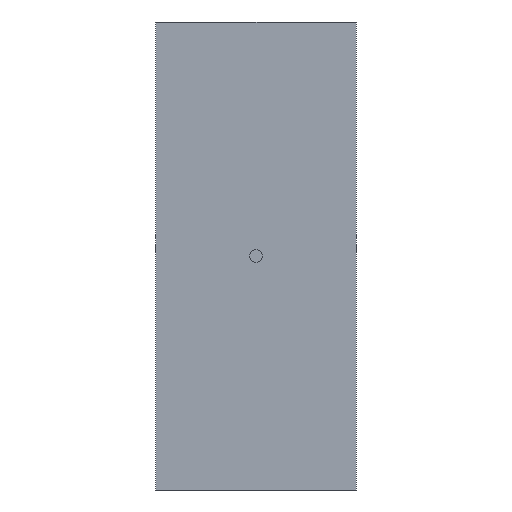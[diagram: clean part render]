
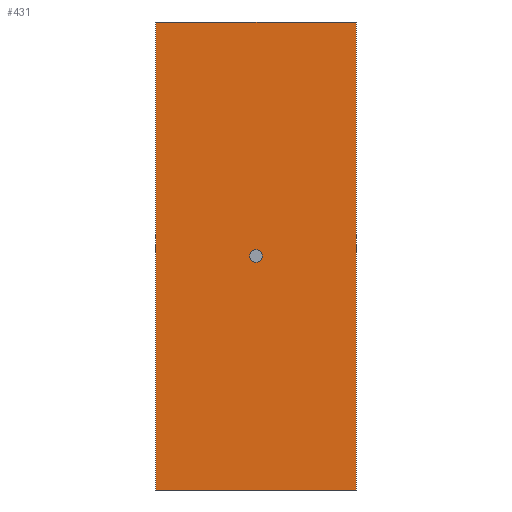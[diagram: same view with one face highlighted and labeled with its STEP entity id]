
A CAD part, left-side view. The second image highlights one B-rep face of the part: STEP entity #431.
In plain terms, the highlighted planar face has unit normal (-1, 0, 0).
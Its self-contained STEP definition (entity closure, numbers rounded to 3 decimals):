
#44 = PLANE('',#45);
#45 = AXIS2_PLACEMENT_3D('',#46,#47,#48);
#46 = CARTESIAN_POINT('',(0.,0.,0.));
#47 = DIRECTION('',(0.,1.,0.));
#48 = DIRECTION('',(0.,0.,1.));
#72 = PLANE('',#73);
#73 = AXIS2_PLACEMENT_3D('',#74,#75,#76);
#74 = CARTESIAN_POINT('',(0.,0.,0.));
#75 = DIRECTION('',(0.,0.,1.));
#76 = DIRECTION('',(1.,0.,0.));
#100 = PLANE('',#101);
#101 = AXIS2_PLACEMENT_3D('',#102,#103,#104);
#102 = CARTESIAN_POINT('',(0.,38.1,0.));
#103 = DIRECTION('',(0.,1.,0.));
#104 = DIRECTION('',(0.,0.,1.));
#126 = PLANE('',#127);
#127 = AXIS2_PLACEMENT_3D('',#128,#129,#130);
#128 = CARTESIAN_POINT('',(0.,0.,88.9));
#129 = DIRECTION('',(0.,0.,1.));
#130 = DIRECTION('',(1.,0.,0.));
#142 = VERTEX_POINT('',#143);
#143 = CARTESIAN_POINT('',(0.,0.,0.));
#164 = EDGE_CURVE('',#142,#165,#167,.T.);
#165 = VERTEX_POINT('',#166);
#166 = CARTESIAN_POINT('',(0.,0.,88.9));
#167 = SURFACE_CURVE('',#168,(#172,#179),.PCURVE_S1.);
#168 = LINE('',#169,#170);
#169 = CARTESIAN_POINT('',(0.,0.,0.));
#170 = VECTOR('',#171,1.);
#171 = DIRECTION('',(0.,0.,1.));
#172 = PCURVE('',#44,#173);
#173 = DEFINITIONAL_REPRESENTATION('',(#174),#178);
#174 = LINE('',#175,#176);
#175 = CARTESIAN_POINT('',(0.,0.));
#176 = VECTOR('',#177,1.);
#177 = DIRECTION('',(1.,0.));
#178 = ( GEOMETRIC_REPRESENTATION_CONTEXT(2) 
PARAMETRIC_REPRESENTATION_CONTEXT() REPRESENTATION_CONTEXT('2D SPACE',''
  ) );
#179 = PCURVE('',#180,#185);
#180 = PLANE('',#181);
#181 = AXIS2_PLACEMENT_3D('',#182,#183,#184);
#182 = CARTESIAN_POINT('',(0.,0.,0.));
#183 = DIRECTION('',(1.,0.,0.));
#184 = DIRECTION('',(0.,0.,1.));
#185 = DEFINITIONAL_REPRESENTATION('',(#186),#190);
#186 = LINE('',#187,#188);
#187 = CARTESIAN_POINT('',(0.,0.));
#188 = VECTOR('',#189,1.);
#189 = DIRECTION('',(1.,0.));
#190 = ( GEOMETRIC_REPRESENTATION_CONTEXT(2) 
PARAMETRIC_REPRESENTATION_CONTEXT() REPRESENTATION_CONTEXT('2D SPACE',''
  ) );
#217 = EDGE_CURVE('',#165,#218,#220,.T.);
#218 = VERTEX_POINT('',#219);
#219 = CARTESIAN_POINT('',(0.,38.1,88.9));
#220 = SURFACE_CURVE('',#221,(#225,#232),.PCURVE_S1.);
#221 = LINE('',#222,#223);
#222 = CARTESIAN_POINT('',(0.,0.,88.9));
#223 = VECTOR('',#224,1.);
#224 = DIRECTION('',(0.,1.,0.));
#225 = PCURVE('',#126,#226);
#226 = DEFINITIONAL_REPRESENTATION('',(#227),#231);
#227 = LINE('',#228,#229);
#228 = CARTESIAN_POINT('',(0.,0.));
#229 = VECTOR('',#230,1.);
#230 = DIRECTION('',(0.,1.));
#231 = ( GEOMETRIC_REPRESENTATION_CONTEXT(2) 
PARAMETRIC_REPRESENTATION_CONTEXT() REPRESENTATION_CONTEXT('2D SPACE',''
  ) );
#232 = PCURVE('',#180,#233);
#233 = DEFINITIONAL_REPRESENTATION('',(#234),#238);
#234 = LINE('',#235,#236);
#235 = CARTESIAN_POINT('',(88.9,0.));
#236 = VECTOR('',#237,1.);
#237 = DIRECTION('',(0.,-1.));
#238 = ( GEOMETRIC_REPRESENTATION_CONTEXT(2) 
PARAMETRIC_REPRESENTATION_CONTEXT() REPRESENTATION_CONTEXT('2D SPACE',''
  ) );
#267 = VERTEX_POINT('',#268);
#268 = CARTESIAN_POINT('',(0.,38.1,0.));
#289 = EDGE_CURVE('',#267,#218,#290,.T.);
#290 = SURFACE_CURVE('',#291,(#295,#302),.PCURVE_S1.);
#291 = LINE('',#292,#293);
#292 = CARTESIAN_POINT('',(0.,38.1,0.));
#293 = VECTOR('',#294,1.);
#294 = DIRECTION('',(0.,0.,1.));
#295 = PCURVE('',#100,#296);
#296 = DEFINITIONAL_REPRESENTATION('',(#297),#301);
#297 = LINE('',#298,#299);
#298 = CARTESIAN_POINT('',(0.,0.));
#299 = VECTOR('',#300,1.);
#300 = DIRECTION('',(1.,0.));
#301 = ( GEOMETRIC_REPRESENTATION_CONTEXT(2) 
PARAMETRIC_REPRESENTATION_CONTEXT() REPRESENTATION_CONTEXT('2D SPACE',''
  ) );
#302 = PCURVE('',#180,#303);
#303 = DEFINITIONAL_REPRESENTATION('',(#304),#308);
#304 = LINE('',#305,#306);
#305 = CARTESIAN_POINT('',(0.,-38.1));
#306 = VECTOR('',#307,1.);
#307 = DIRECTION('',(1.,0.));
#308 = ( GEOMETRIC_REPRESENTATION_CONTEXT(2) 
PARAMETRIC_REPRESENTATION_CONTEXT() REPRESENTATION_CONTEXT('2D SPACE',''
  ) );
#408 = EDGE_CURVE('',#142,#267,#409,.T.);
#409 = SURFACE_CURVE('',#410,(#414,#421),.PCURVE_S1.);
#410 = LINE('',#411,#412);
#411 = CARTESIAN_POINT('',(0.,0.,0.));
#412 = VECTOR('',#413,1.);
#413 = DIRECTION('',(0.,1.,0.));
#414 = PCURVE('',#72,#415);
#415 = DEFINITIONAL_REPRESENTATION('',(#416),#420);
#416 = LINE('',#417,#418);
#417 = CARTESIAN_POINT('',(0.,0.));
#418 = VECTOR('',#419,1.);
#419 = DIRECTION('',(0.,1.));
#420 = ( GEOMETRIC_REPRESENTATION_CONTEXT(2) 
PARAMETRIC_REPRESENTATION_CONTEXT() REPRESENTATION_CONTEXT('2D SPACE',''
  ) );
#421 = PCURVE('',#180,#422);
#422 = DEFINITIONAL_REPRESENTATION('',(#423),#427);
#423 = LINE('',#424,#425);
#424 = CARTESIAN_POINT('',(0.,0.));
#425 = VECTOR('',#426,1.);
#426 = DIRECTION('',(0.,-1.));
#427 = ( GEOMETRIC_REPRESENTATION_CONTEXT(2) 
PARAMETRIC_REPRESENTATION_CONTEXT() REPRESENTATION_CONTEXT('2D SPACE',''
  ) );
#431 = ADVANCED_FACE('',(#432,#463),#180,.F.);
#432 = FACE_BOUND('',#433,.F.);
#433 = EDGE_LOOP('',(#434));
#434 = ORIENTED_EDGE('',*,*,#435,.F.);
#435 = EDGE_CURVE('',#436,#436,#438,.T.);
#436 = VERTEX_POINT('',#437);
#437 = CARTESIAN_POINT('',(0.,19.05,43.259));
#438 = SURFACE_CURVE('',#439,(#444,#451),.PCURVE_S1.);
#439 = CIRCLE('',#440,1.191);
#440 = AXIS2_PLACEMENT_3D('',#441,#442,#443);
#441 = CARTESIAN_POINT('',(0.,19.05,44.45));
#442 = DIRECTION('',(1.,0.,0.));
#443 = DIRECTION('',(0.,0.,-1.));
#444 = PCURVE('',#180,#445);
#445 = DEFINITIONAL_REPRESENTATION('',(#446),#450);
#446 = CIRCLE('',#447,1.191);
#447 = AXIS2_PLACEMENT_2D('',#448,#449);
#448 = CARTESIAN_POINT('',(44.45,-19.05));
#449 = DIRECTION('',(-1.,0.));
#450 = ( GEOMETRIC_REPRESENTATION_CONTEXT(2) 
PARAMETRIC_REPRESENTATION_CONTEXT() REPRESENTATION_CONTEXT('2D SPACE',''
  ) );
#451 = PCURVE('',#452,#457);
#452 = CYLINDRICAL_SURFACE('',#453,1.191);
#453 = AXIS2_PLACEMENT_3D('',#454,#455,#456);
#454 = CARTESIAN_POINT('',(0.,19.05,44.45));
#455 = DIRECTION('',(1.,0.,0.));
#456 = DIRECTION('',(0.,0.,-1.));
#457 = DEFINITIONAL_REPRESENTATION('',(#458),#462);
#458 = LINE('',#459,#460);
#459 = CARTESIAN_POINT('',(0.,0.));
#460 = VECTOR('',#461,1.);
#461 = DIRECTION('',(1.,0.));
#462 = ( GEOMETRIC_REPRESENTATION_CONTEXT(2) 
PARAMETRIC_REPRESENTATION_CONTEXT() REPRESENTATION_CONTEXT('2D SPACE',''
  ) );
#463 = FACE_BOUND('',#464,.F.);
#464 = EDGE_LOOP('',(#465,#466,#467,#468));
#465 = ORIENTED_EDGE('',*,*,#164,.F.);
#466 = ORIENTED_EDGE('',*,*,#408,.T.);
#467 = ORIENTED_EDGE('',*,*,#289,.T.);
#468 = ORIENTED_EDGE('',*,*,#217,.F.);
